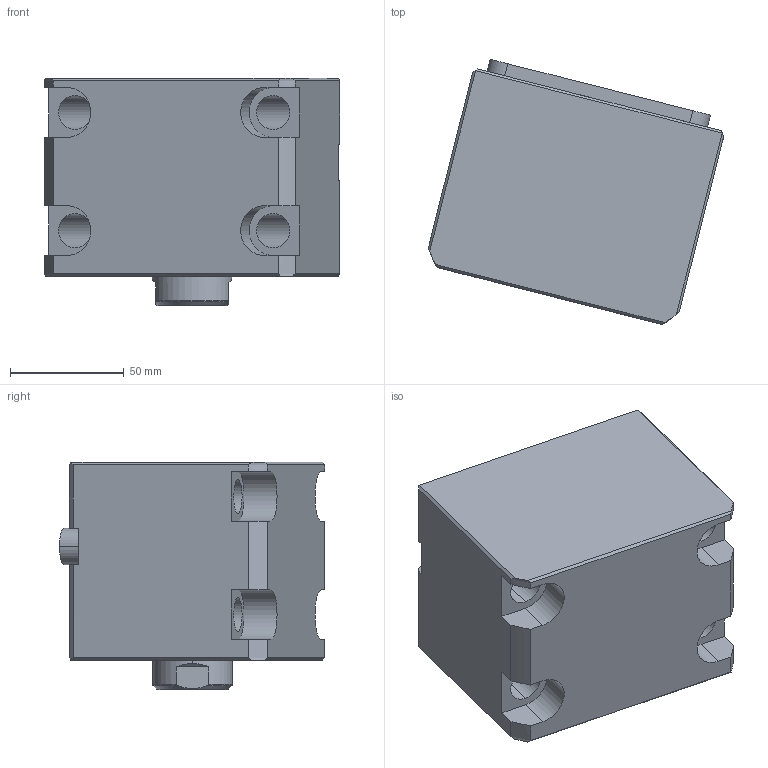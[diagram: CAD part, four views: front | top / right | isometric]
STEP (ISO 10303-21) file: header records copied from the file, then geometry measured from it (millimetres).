
FILE_DESCRIPTION (( 'STEP AP214' ), '1' );
FILE_NAME ('chtb-lam63x20n_asm.STEP', '2018-05-22T07:44:43', ( '' ), ( '' ), 'SwSTEP 2.0', 'SolidWorks 2016', '' );
FILE_SCHEMA (( 'AUTOMOTIVE_DESIGN' ));
Length unit declared in the file: millimetre
Products named in the file (5): CHTB63X20NHSG; CHTB-63QG; chtb-lam63x20n_asm; CHTB-LA63PJ; CHTB-LAM63X20NBT
Assembly tree (4 placements, depth 2):
  chtb-lam63x20n_asm
    CHTB-63QG
    CHTB63X20NHSG
    CHTB-LAM63X20NBT
    CHTB-LA63PJ
Bounding box: 130.05 x 116.72 x 100 mm (x, y, z)
Volume: 766996.5 mm3; surface area: 129875.3 mm2
Topology: 4 solids, 4 shells, 183 faces, 539 edges, 366 vertices
Faces by surface type: cylinder 99, plane 55, bspline 13, cone 8, torus 8
Entity records: 19040 total; most frequent: CARTESIAN_POINT 14352, ORIENTED_EDGE 1066, DIRECTION 788, EDGE_CURVE 533, VERTEX_POINT 366, AXIS2_PLACEMENT_3D 291, LINE 206, VECTOR 206
